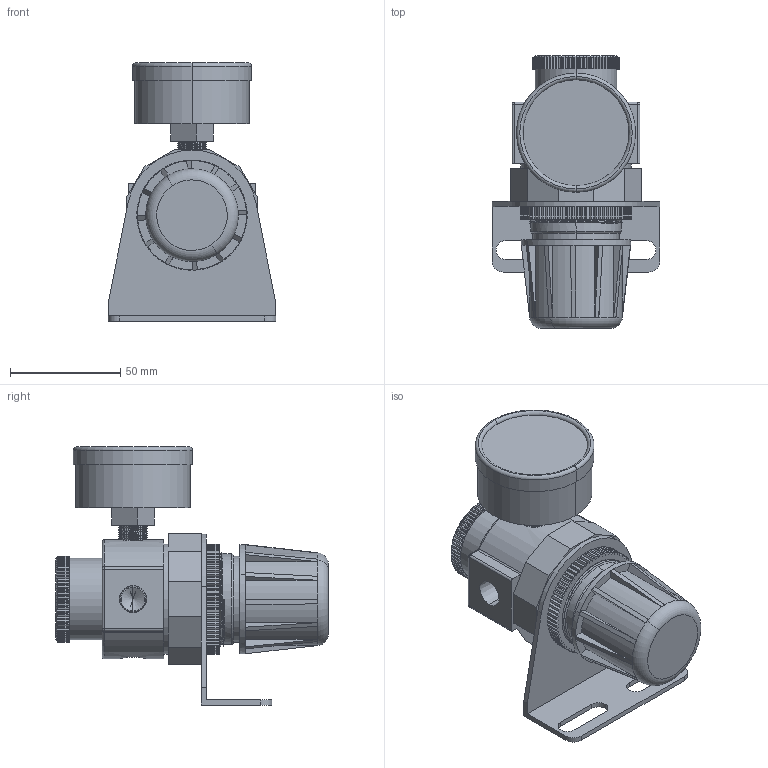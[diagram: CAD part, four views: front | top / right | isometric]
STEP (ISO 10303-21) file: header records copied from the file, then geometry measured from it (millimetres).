
FILE_DESCRIPTION (( 'STEP AP203' ), '1' );
FILE_NAME ('R010-02GB#.STEP', '2016-01-14T17:57:02', ( '' ), ( '' ), 'SwSTEP 2.0', 'SolidWorks 2014', '' );
FILE_SCHEMA (( 'CONFIG_CONTROL_DESIGN' ));
Length unit declared in the file: millimetre
Products named in the file (11): 50-P-AD=1-4PT-2; 50-P-AD=1-4PT-1; KWSAR10Y57-1; R010-1; 50-P-AD=1-4PT.SLDPRT; R010-02GB#; R010-3; R010-2; R010-4; KWSAR10Y57; KWR10X51
Assembly tree (10 placements, depth 3):
  R010-02GB#
    R010-1
    R010-2
    R010-3
    R010-4
    KWSAR10Y57
      KWSAR10Y57-1
      KWR10X51
    50-P-AD=1-4PT.SLDPRT
      50-P-AD=1-4PT-1
      50-P-AD=1-4PT-2
Bounding box: 76 x 123.5 x 117 mm (x, y, z)
Volume: 285776.4 mm3; surface area: 64843.2 mm2
Topology: 8 solids, 8 shells, 715 faces, 2000 edges, 1301 vertices
Faces by surface type: plane 421, cylinder 253, cone 18, torus 15, sphere 4, bspline 4
Entity records: 26697 total; most frequent: CARTESIAN_POINT 7379, ORIENTED_EDGE 3976, DIRECTION 3668, EDGE_CURVE 1988, VERTEX_POINT 1301, VECTOR 1228, LINE 1228, AXIS2_PLACEMENT_3D 1220
